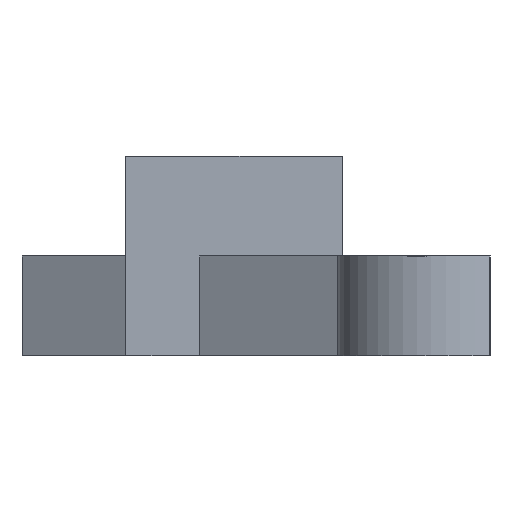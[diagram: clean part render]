
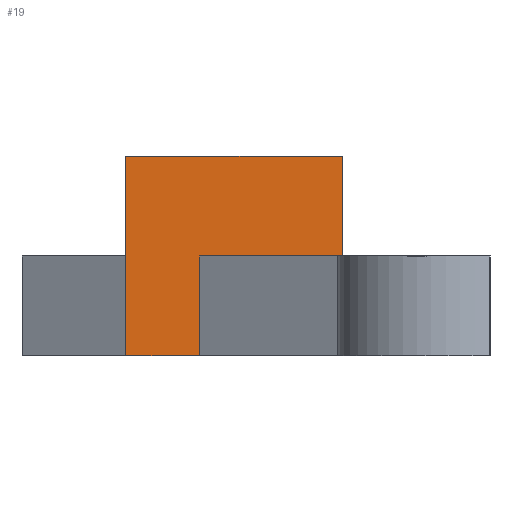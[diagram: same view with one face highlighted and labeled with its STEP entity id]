
A CAD part, left-side view. The second image highlights one B-rep face of the part: STEP entity #19.
In plain terms, the highlighted planar face has unit normal (-1, 0, 0).
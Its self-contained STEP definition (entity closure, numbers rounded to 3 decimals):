
#19=ADVANCED_FACE('',(#65),#861,.T.);
#65=FACE_OUTER_BOUND('',#111,.T.);
#111=EDGE_LOOP('',(#161,#162,#163,#164,#165,#166,#167,#168,#169,#170));
#161=ORIENTED_EDGE('',*,*,#579,.T.);
#162=ORIENTED_EDGE('',*,*,#592,.T.);
#163=ORIENTED_EDGE('',*,*,#455,.T.);
#164=ORIENTED_EDGE('',*,*,#454,.F.);
#165=ORIENTED_EDGE('',*,*,#589,.F.);
#166=ORIENTED_EDGE('',*,*,#575,.T.);
#167=ORIENTED_EDGE('',*,*,#577,.T.);
#168=ORIENTED_EDGE('',*,*,#576,.F.);
#169=ORIENTED_EDGE('',*,*,#591,.F.);
#170=ORIENTED_EDGE('',*,*,#578,.T.);
#454=EDGE_CURVE('',#746,#747,#676,.T.);
#455=EDGE_CURVE('',#748,#747,#677,.T.);
#575=EDGE_CURVE('',#822,#821,#661,.T.);
#576=EDGE_CURVE('',#823,#824,#662,.T.);
#577=EDGE_CURVE('',#821,#824,#663,.T.);
#578=EDGE_CURVE('',#826,#825,#664,.T.);
#579=EDGE_CURVE('',#825,#827,#665,.T.);
#589=EDGE_CURVE('',#822,#746,#735,.T.);
#591=EDGE_CURVE('',#826,#823,#737,.T.);
#592=EDGE_CURVE('',#827,#748,#738,.T.);
#661=(
BOUNDED_CURVE()
B_SPLINE_CURVE(1,(#1561,#1562),.UNSPECIFIED.,.F.,.F.)
B_SPLINE_CURVE_WITH_KNOTS((2,2),(0.,15.),.UNSPECIFIED.)
CURVE()
GEOMETRIC_REPRESENTATION_ITEM()
RATIONAL_B_SPLINE_CURVE((1.,1.))
REPRESENTATION_ITEM('')
);
#662=(
BOUNDED_CURVE()
B_SPLINE_CURVE(1,(#1563,#1564),.UNSPECIFIED.,.F.,.F.)
B_SPLINE_CURVE_WITH_KNOTS((2,2),(0.,15.),.UNSPECIFIED.)
CURVE()
GEOMETRIC_REPRESENTATION_ITEM()
RATIONAL_B_SPLINE_CURVE((1.,1.))
REPRESENTATION_ITEM('')
);
#663=(
BOUNDED_CURVE()
B_SPLINE_CURVE(2,(#1565,#1566,#1567),.UNSPECIFIED.,.F.,.F.)
B_SPLINE_CURVE_WITH_KNOTS((3,3),(-1470.425,-1464.425),
 .UNSPECIFIED.)
CURVE()
GEOMETRIC_REPRESENTATION_ITEM()
RATIONAL_B_SPLINE_CURVE((1.,1.,1.))
REPRESENTATION_ITEM('')
);
#664=(
BOUNDED_CURVE()
B_SPLINE_CURVE(1,(#1568,#1569),.UNSPECIFIED.,.F.,.F.)
B_SPLINE_CURVE_WITH_KNOTS((2,2),(0.,15.),.UNSPECIFIED.)
CURVE()
GEOMETRIC_REPRESENTATION_ITEM()
RATIONAL_B_SPLINE_CURVE((1.,1.))
REPRESENTATION_ITEM('')
);
#665=(
BOUNDED_CURVE()
B_SPLINE_CURVE(2,(#1570,#1571,#1572),.UNSPECIFIED.,.F.,.F.)
B_SPLINE_CURVE_WITH_KNOTS((3,3),(-1431.456,-1429.582),
 .UNSPECIFIED.)
CURVE()
GEOMETRIC_REPRESENTATION_ITEM()
RATIONAL_B_SPLINE_CURVE((1.,1.,1.))
REPRESENTATION_ITEM('')
);
#676=B_SPLINE_CURVE_WITH_KNOTS('',1,(#1243,#1244),.UNSPECIFIED.,.F.,.F.,
(2,2),(0.,30.),.UNSPECIFIED.);
#677=B_SPLINE_CURVE_WITH_KNOTS('',1,(#1245,#1246),.UNSPECIFIED.,.F.,.F.,
(2,2),(-270.,-237.5),.UNSPECIFIED.);
#735=B_SPLINE_CURVE_WITH_KNOTS('',1,(#1595,#1596),.UNSPECIFIED.,.F.,.F.,
(2,2),(-248.585,-237.5),.UNSPECIFIED.);
#737=B_SPLINE_CURVE_WITH_KNOTS('',1,(#1599,#1600),.UNSPECIFIED.,.F.,.F.,
(2,2),(-268.125,-254.585),.UNSPECIFIED.);
#738=B_SPLINE_CURVE_WITH_KNOTS('',1,(#1601,#1602),.UNSPECIFIED.,.F.,.F.,
(2,2),(15.,30.),.UNSPECIFIED.);
#746=VERTEX_POINT('',#1148);
#747=VERTEX_POINT('',#1149);
#748=VERTEX_POINT('',#1150);
#821=VERTEX_POINT('',#1223);
#822=VERTEX_POINT('',#1224);
#823=VERTEX_POINT('',#1225);
#824=VERTEX_POINT('',#1226);
#825=VERTEX_POINT('',#1227);
#826=VERTEX_POINT('',#1228);
#827=VERTEX_POINT('',#1229);
#861=PLANE('',#905);
#905=AXIS2_PLACEMENT_3D('',#959,#932,$);
#932=DIRECTION('',(-1.,0.,0.));
#959=CARTESIAN_POINT('',(-51.25,14.061,171.));
#1148=CARTESIAN_POINT('',(-51.25,46.561,171.));
#1149=CARTESIAN_POINT('',(-51.25,46.561,201.));
#1150=CARTESIAN_POINT('',(-51.25,14.061,201.));
#1223=CARTESIAN_POINT('',(-51.25,35.476,186.));
#1224=CARTESIAN_POINT('',(-51.25,35.476,171.));
#1225=CARTESIAN_POINT('',(-51.25,29.476,171.));
#1226=CARTESIAN_POINT('',(-51.25,29.476,186.));
#1227=CARTESIAN_POINT('',(-51.25,15.936,186.));
#1228=CARTESIAN_POINT('',(-51.25,15.936,171.));
#1229=CARTESIAN_POINT('',(-51.25,14.061,186.));
#1243=CARTESIAN_POINT('',(-51.25,46.561,171.));
#1244=CARTESIAN_POINT('',(-51.25,46.561,201.));
#1245=CARTESIAN_POINT('',(-51.25,14.061,201.));
#1246=CARTESIAN_POINT('',(-51.25,46.561,201.));
#1561=CARTESIAN_POINT('',(-51.25,35.476,171.));
#1562=CARTESIAN_POINT('',(-51.25,35.476,186.));
#1563=CARTESIAN_POINT('',(-51.25,29.476,171.));
#1564=CARTESIAN_POINT('',(-51.25,29.476,186.));
#1565=CARTESIAN_POINT('',(-51.25,35.476,186.));
#1566=CARTESIAN_POINT('',(-51.25,32.476,186.));
#1567=CARTESIAN_POINT('',(-51.25,29.476,186.));
#1568=CARTESIAN_POINT('',(-51.25,15.936,171.));
#1569=CARTESIAN_POINT('',(-51.25,15.936,186.));
#1570=CARTESIAN_POINT('',(-51.25,15.936,186.));
#1571=CARTESIAN_POINT('',(-51.25,14.998,186.));
#1572=CARTESIAN_POINT('',(-51.25,14.061,186.));
#1595=CARTESIAN_POINT('',(-51.25,35.476,171.));
#1596=CARTESIAN_POINT('',(-51.25,46.561,171.));
#1599=CARTESIAN_POINT('',(-51.25,15.936,171.));
#1600=CARTESIAN_POINT('',(-51.25,29.476,171.));
#1601=CARTESIAN_POINT('',(-51.25,14.061,186.));
#1602=CARTESIAN_POINT('',(-51.25,14.061,201.));
